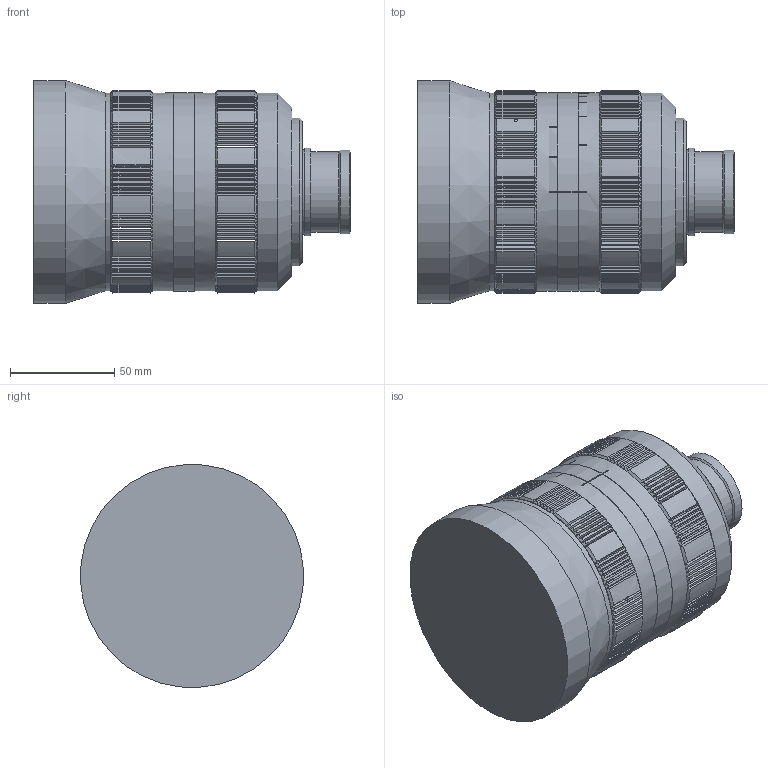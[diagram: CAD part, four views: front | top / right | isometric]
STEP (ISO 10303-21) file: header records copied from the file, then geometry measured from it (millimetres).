
FILE_DESCRIPTION((''),'2;1');
FILE_NAME('\\OPTECSERVER3\Doc Produ\Meccaniche\STP\A_2008\C0812\C0812_000\C0812_003.stp','2014-04-28T11:25:03',('mcilia'),(''),'Autodesk Inventor 2010','Autodesk Inventor 2010','');
FILE_SCHEMA(('AUTOMOTIVE_DESIGN { 1 0 10303 214 1 1 1 1 }'));
Length unit declared in the file: millimetre
Products named in the file (2): C0812_003_000 (Livello di dettaglio sostituto1); C0812_003
Assembly tree (1 placements, depth 2):
  C0812_003_000 (Livello di dettaglio sostituto1)
    C0812_003
Bounding box: 151.8 x 106.8 x 106.8 mm (x, y, z)
Surface area: 112068.7 mm2 (no closed solid volume)
Topology: 0 solids, 11 shells, 926 faces, 2142 edges, 1198 vertices
Faces by surface type: cone 368, plane 360, cylinder 195, bspline 3
Full cylindrical faces by diameter (mm): 38 x1, 38.5 x1, 40 x1, 40.7 x1, 42 x1, 71 x1, 95 x4, 107 x1
Entity records: 25629 total; most frequent: CARTESIAN_POINT 5925, DIRECTION 4004, ORIENTED_EDGE 3907, EDGE_CURVE 2117, AXIS2_PLACEMENT_3D 1700, VERTEX_POINT 1191, EDGE_LOOP 944, FACE_OUTER_BOUND 926
